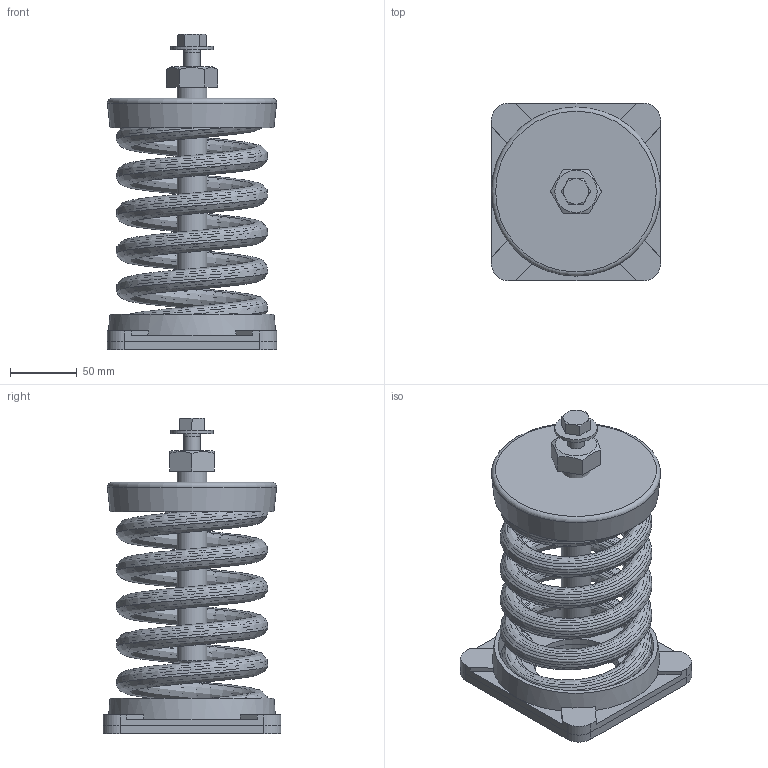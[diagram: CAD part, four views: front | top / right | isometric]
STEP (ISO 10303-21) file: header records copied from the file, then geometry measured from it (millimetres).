
FILE_DESCRIPTION(/* description */ (''),/* implementation_level */ '2;1');
FILE_NAME(/* name */ 'C:\001_Work\Designs\SLF ASSEMBLIES\SLF-108.stp',/* time_stamp */ '2016-01-10T13:29:14-05:00',/* author */ ('rramoutar'),/* organization */ ('Mason Industries Inc.'),/* preprocessor_version */ 'ST-DEVELOPER v15.6',/* originating_system */ 'Autodesk Inventor 2015',/* authorisation */ '');
FILE_SCHEMA (('CONFIG_CONTROL_DESIGN'));
Length unit declared in the file: inch
Products named in the file (1): SLF-108
Bounding box: 127.03 x 133.35 x 237.21 mm (x, y, z)
Volume: 456498.4 mm3; surface area: 309991.8 mm2
Topology: 7 solids, 7 shells, 150 faces, 365 edges, 238 vertices
Faces by surface type: plane 87, cylinder 25, bspline 22, cone 14, torus 2
Full cylindrical faces by diameter (mm): 9.525 x4, 12.7 x2, 13.487 x1, 19.05 x1, 19.447 x1, 22.225 x1, 31.75 x1, 63.5 x2, 116.681 x2
Entity records: 14306 total; most frequent: CARTESIAN_POINT 10893, ORIENTED_EDGE 666, DIRECTION 598, EDGE_CURVE 333, VERTEX_POINT 231, AXIS2_PLACEMENT_3D 222, EDGE_LOOP 194, STYLED_ITEM 157
